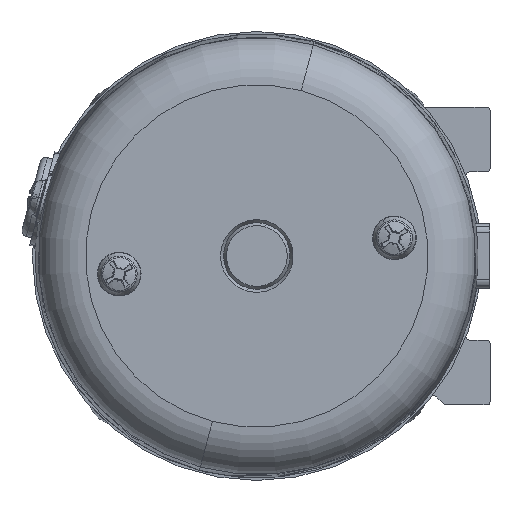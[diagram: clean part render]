
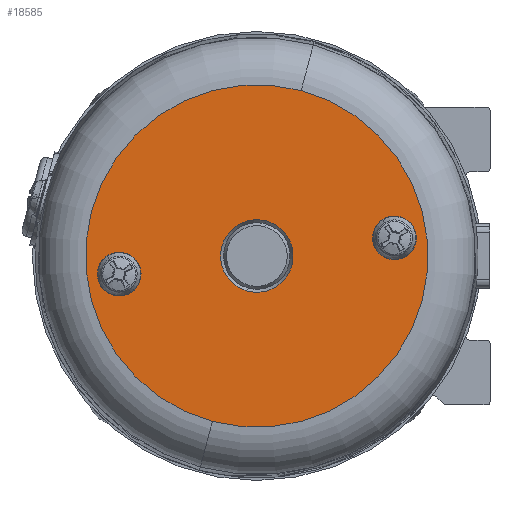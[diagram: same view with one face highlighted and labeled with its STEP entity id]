
A CAD part, left-side view. The second image highlights one B-rep face of the part: STEP entity #18585.
In plain terms, the highlighted planar face has unit normal (-1, 0, 0).
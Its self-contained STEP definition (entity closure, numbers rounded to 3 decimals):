
#579 = EDGE_CURVE ( 'NONE', #17661, #14008, #903, .T. ) ;
#903 = CIRCLE ( 'NONE', #17227, 2.159 ) ;
#1188 = EDGE_CURVE ( 'NONE', #14008, #17661, #29807, .T. ) ;
#2134 = EDGE_LOOP ( 'NONE', ( #21247, #29884 ) ) ;
#3173 = CARTESIAN_POINT ( 'NONE',  ( -29.984, 83.428, 94.616 ) ) ;
#3382 = DIRECTION ( 'NONE',  ( 0., 0.966, 0.259 ) ) ;
#3422 = ORIENTED_EDGE ( 'NONE', *, *, #30815, .T. ) ;
#3630 = CARTESIAN_POINT ( 'NONE',  ( -29.984, 59.345, 91.149 ) ) ;
#3845 = CIRCLE ( 'NONE', #31226, 6.228 ) ;
#4614 = ORIENTED_EDGE ( 'NONE', *, *, #579, .T. ) ;
#4877 = DIRECTION ( 'NONE',  ( 1., 0., 0. ) ) ;
#4888 = DIRECTION ( 'NONE',  ( 1., 0., 0. ) ) ;
#5242 = AXIS2_PLACEMENT_3D ( 'NONE', #12400, #14626, #20252 ) ;
#5304 = CARTESIAN_POINT ( 'NONE',  ( -29.984, 86.652, 82.584 ) ) ;
#6233 = DIRECTION ( 'NONE',  ( 0., 0.966, 0.259 ) ) ;
#6246 = EDGE_CURVE ( 'NONE', #17964, #15866, #11212, .T. ) ;
#9604 = DIRECTION ( 'NONE',  ( 0., 0.966, 0.259 ) ) ;
#10988 = CARTESIAN_POINT ( 'NONE',  ( -29.984, 106.563, 84.933 ) ) ;
#11096 = DIRECTION ( 'NONE',  ( 1., 0., 0. ) ) ;
#11212 = CIRCLE ( 'NONE', #28699, 29.371 ) ;
#11601 = CIRCLE ( 'NONE', #26351, 29.371 ) ;
#11653 = DIRECTION ( 'NONE',  ( 0., 0.259, -0.966 ) ) ;
#11979 = DIRECTION ( 'NONE',  ( 1., 0., 0. ) ) ;
#12400 = CARTESIAN_POINT ( 'NONE',  ( -29.984, 61.431, 91.708 ) ) ;
#12862 = EDGE_CURVE ( 'NONE', #15866, #17964, #11601, .T. ) ;
#13554 = CARTESIAN_POINT ( 'NONE',  ( -29.984, 85.04, 88.6 ) ) ;
#13713 = EDGE_LOOP ( 'NONE', ( #4614, #33004 ) ) ;
#14008 = VERTEX_POINT ( 'NONE', #3630 ) ;
#14228 = CARTESIAN_POINT ( 'NONE',  ( -29.984, 85.04, 88.6 ) ) ;
#14293 = FACE_BOUND ( 'NONE', #13713, .T. ) ;
#14361 = AXIS2_PLACEMENT_3D ( 'NONE', #32059, #4877, #18197 ) ;
#14626 = DIRECTION ( 'NONE',  ( 1., 0., 0. ) ) ;
#14759 = VERTEX_POINT ( 'NONE', #10988 ) ;
#15866 = VERTEX_POINT ( 'NONE', #21926 ) ;
#17227 = AXIS2_PLACEMENT_3D ( 'NONE', #29654, #27075, #6233 ) ;
#17661 = VERTEX_POINT ( 'NONE', #27170 ) ;
#17964 = VERTEX_POINT ( 'NONE', #24667 ) ;
#18197 = DIRECTION ( 'NONE',  ( 0., 0.966, 0.259 ) ) ;
#18585 = ADVANCED_FACE ( 'NONE', ( #14293, #24401, #27125, #21807 ), #26951, .T. ) ;
#18654 = EDGE_CURVE ( 'NONE', #32100, #20879, #3845, .T. ) ;
#19841 = DIRECTION ( 'NONE',  ( 0., 0.966, 0.259 ) ) ;
#20252 = DIRECTION ( 'NONE',  ( 0., 0.966, 0.259 ) ) ;
#20259 = DIRECTION ( 'NONE',  ( 0., 0.966, 0.259 ) ) ;
#20391 = AXIS2_PLACEMENT_3D ( 'NONE', #25125, #30961, #9604 ) ;
#20879 = VERTEX_POINT ( 'NONE', #5304 ) ;
#21247 = ORIENTED_EDGE ( 'NONE', *, *, #27739, .T. ) ;
#21352 = DIRECTION ( 'NONE',  ( 0., 0.259, -0.966 ) ) ;
#21419 = DIRECTION ( 'NONE',  ( 1., 0., 0. ) ) ;
#21807 = FACE_BOUND ( 'NONE', #2134, .T. ) ;
#21835 = CARTESIAN_POINT ( 'NONE',  ( -29.984, 85.04, 88.6 ) ) ;
#21926 = CARTESIAN_POINT ( 'NONE',  ( -29.984, 92.641, 60.23 ) ) ;
#21965 = CARTESIAN_POINT ( 'NONE',  ( -29.984, 89.646, 71.407 ) ) ;
#22689 = ORIENTED_EDGE ( 'NONE', *, *, #6246, .F. ) ;
#22962 = CARTESIAN_POINT ( 'NONE',  ( -29.984, 110.734, 86.051 ) ) ;
#23094 = CIRCLE ( 'NONE', #27461, 6.228 ) ;
#23134 = EDGE_LOOP ( 'NONE', ( #23467, #22689 ) ) ;
#23467 = ORIENTED_EDGE ( 'NONE', *, *, #12862, .F. ) ;
#23694 = CIRCLE ( 'NONE', #20391, 2.159 ) ;
#24401 = FACE_BOUND ( 'NONE', #33420, .T. ) ;
#24667 = CARTESIAN_POINT ( 'NONE',  ( -29.984, 77.438, 116.97 ) ) ;
#25125 = CARTESIAN_POINT ( 'NONE',  ( -29.984, 108.648, 85.492 ) ) ;
#25842 = CIRCLE ( 'NONE', #14361, 2.159 ) ;
#26351 = AXIS2_PLACEMENT_3D ( 'NONE', #21835, #11096, #21352 ) ;
#26951 = PLANE ( 'NONE',  #27299 ) ;
#27075 = DIRECTION ( 'NONE',  ( 1., 0., 0. ) ) ;
#27125 = FACE_OUTER_BOUND ( 'NONE', #23134, .T. ) ;
#27170 = CARTESIAN_POINT ( 'NONE',  ( -29.984, 63.516, 92.267 ) ) ;
#27299 = AXIS2_PLACEMENT_3D ( 'NONE', #21965, #32479, #3382 ) ;
#27461 = AXIS2_PLACEMENT_3D ( 'NONE', #13554, #21419, #19841 ) ;
#27515 = VERTEX_POINT ( 'NONE', #22962 ) ;
#27627 = CARTESIAN_POINT ( 'NONE',  ( -29.984, 85.04, 88.6 ) ) ;
#27739 = EDGE_CURVE ( 'NONE', #20879, #32100, #23094, .T. ) ;
#28699 = AXIS2_PLACEMENT_3D ( 'NONE', #14228, #11979, #11653 ) ;
#29654 = CARTESIAN_POINT ( 'NONE',  ( -29.984, 61.431, 91.708 ) ) ;
#29807 = CIRCLE ( 'NONE', #5242, 2.159 ) ;
#29884 = ORIENTED_EDGE ( 'NONE', *, *, #18654, .T. ) ;
#30082 = ORIENTED_EDGE ( 'NONE', *, *, #30526, .T. ) ;
#30526 = EDGE_CURVE ( 'NONE', #14759, #27515, #25842, .T. ) ;
#30815 = EDGE_CURVE ( 'NONE', #27515, #14759, #23694, .T. ) ;
#30961 = DIRECTION ( 'NONE',  ( 1., 0., 0. ) ) ;
#31226 = AXIS2_PLACEMENT_3D ( 'NONE', #27627, #4888, #20259 ) ;
#32059 = CARTESIAN_POINT ( 'NONE',  ( -29.984, 108.648, 85.492 ) ) ;
#32100 = VERTEX_POINT ( 'NONE', #3173 ) ;
#32479 = DIRECTION ( 'NONE',  ( -1., 0., 0. ) ) ;
#33004 = ORIENTED_EDGE ( 'NONE', *, *, #1188, .T. ) ;
#33420 = EDGE_LOOP ( 'NONE', ( #3422, #30082 ) ) ;
